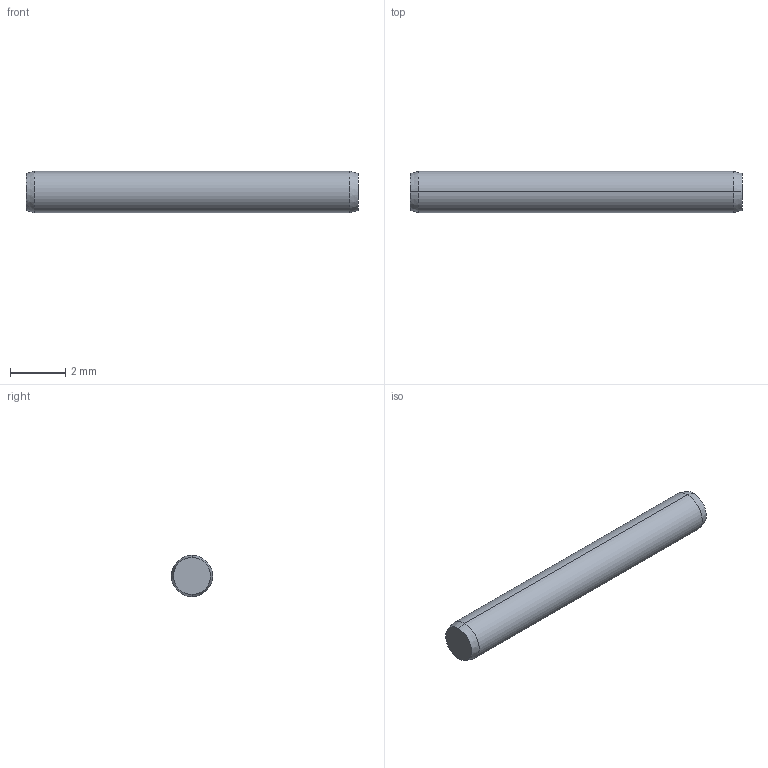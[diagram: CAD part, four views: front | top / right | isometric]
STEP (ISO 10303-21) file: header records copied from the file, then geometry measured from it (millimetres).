
FILE_DESCRIPTION (( 'STEP AP203' ), '1' );
FILE_NAME ('P1206.015-012.step', '2017-06-14T07:53:35', ( 'User' ), ( '' ), 'SwSTEP 2.0', 'SolidWorks 2009', '' );
FILE_SCHEMA (( 'CONFIG_CONTROL_DESIGN' ));
Length unit declared in the file: millimetre
Products named in the file (1): P1206.015-012
Bounding box: 12 x 1.5 x 1.5 mm (x, y, z)
Volume: 21.1 mm3; surface area: 59.3 mm2
Topology: 1 solids, 1 shells, 8 faces, 14 edges, 8 vertices
Faces by surface type: cone 4, cylinder 2, plane 2
Entity records: 271 total; most frequent: DIRECTION 40, CARTESIAN_POINT 31, ORIENTED_EDGE 28, AXIS2_PLACEMENT_3D 17, EDGE_CURVE 14, CIRCLE 8, FACE_OUTER_BOUND 8, VERTEX_POINT 8
